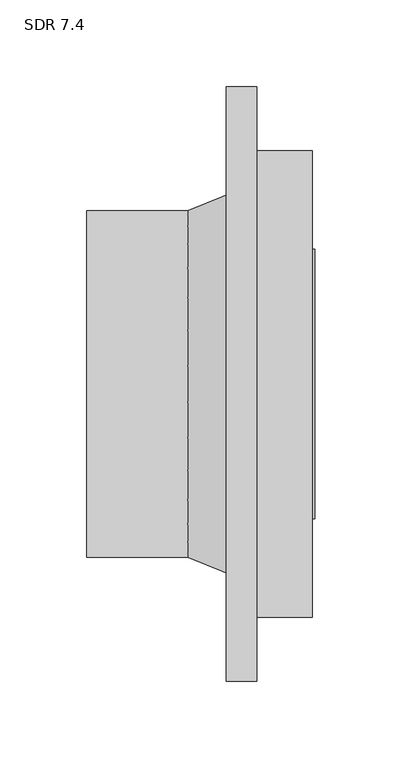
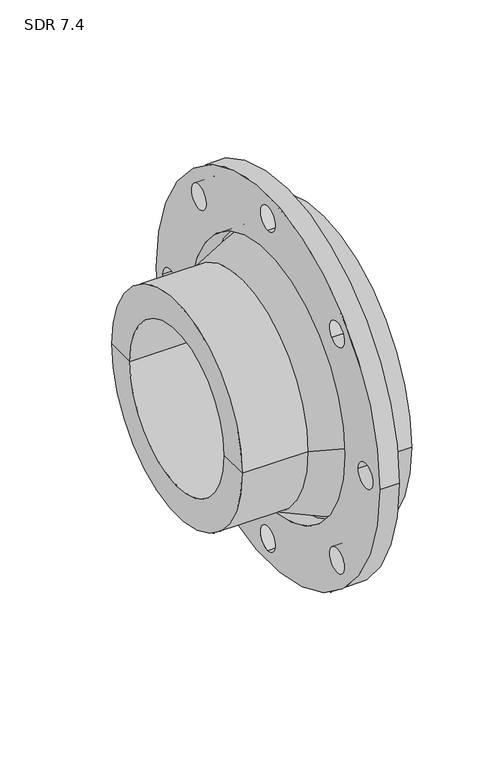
"""IFC4 building model written with IfcOpenShell, lengths in millimetres: valve geometry, Aquatherm - Flange Adapter Butt-Weld : SDR 7.4."""

from ifc_helpers import new_model, si_unit, point, frame, frame_2d, origin, origin_2d, place, context, project, spatial, polyline, circle_curve, trimmed, segment, composite_curve, outline, extrude, source, transform, mapped, element, save
from ifc_brep_helpers import plane_surface, cylinder_surface, revolved_surface, advanced_brep


def sdr_7_4_f0b06e39(model_context):
    return source(origin(), model_context, "Body", "SolidModel", [
        extrude(outline(composite_curve([segment(trimmed(circle_curve(origin_2d(), 171.45), [point((-171.45, 0.0))], [point((171.45, 0.0))], False, "CARTESIAN"), True, "CONTINUOUS"), segment(trimmed(circle_curve(origin_2d(), 171.45), [point((171.45, 0.0))], [point((-171.45, 0.0))], False, "CARTESIAN"), True, "CONTINUOUS")], self_intersect=False), holes=[composite_curve([segment(trimmed(circle_curve(origin_2d(), 118.237), [point((-118.237, 0.0))], [point((118.237, 0.0))], True, "CARTESIAN"), True, "CONTINUOUS"), segment(trimmed(circle_curve(origin_2d(), 118.237), [point((118.237, 0.0))], [point((-118.237, 0.0))], True, "CARTESIAN"), True, "CONTINUOUS")], self_intersect=False), composite_curve([segment(trimmed(circle_curve(frame_2d((149.86, 0.0)), 11.176), [point((138.684, 0.0))], [point((161.036, 0.0))], True, "CARTESIAN"), True, "CONTINUOUS"), segment(trimmed(circle_curve(frame_2d((149.86, 0.0)), 11.176), [point((161.036, 0.0))], [point((138.684, 0.0))], True, "CARTESIAN"), True, "CONTINUOUS")], self_intersect=False), composite_curve([segment(trimmed(circle_curve(frame_2d((105.9670222, -105.9670222)), 11.176), [point((98.0643968, -98.0643968))], [point((113.8696476, -113.8696476))], True, "CARTESIAN"), True, "CONTINUOUS"), segment(trimmed(circle_curve(frame_2d((105.9670222, -105.9670222)), 11.176), [point((113.8696476, -113.8696476))], [point((98.0643968, -98.0643968))], True, "CARTESIAN"), True, "CONTINUOUS")], self_intersect=False), composite_curve([segment(trimmed(circle_curve(frame_2d((105.9670222, 105.9670222)), 11.176), [point((98.0643968, 98.0643968))], [point((113.8696476, 113.8696476))], True, "CARTESIAN"), True, "CONTINUOUS"), segment(trimmed(circle_curve(frame_2d((105.9670222, 105.9670222)), 11.176), [point((113.8696476, 113.8696476))], [point((98.0643968, 98.0643968))], True, "CARTESIAN"), True, "CONTINUOUS")], self_intersect=False), composite_curve([segment(trimmed(circle_curve(frame_2d((0.0, 149.86)), 11.176), [point((0.0, 138.684))], [point((0.0, 161.036))], True, "CARTESIAN"), True, "CONTINUOUS"), segment(trimmed(circle_curve(frame_2d((0.0, 149.86)), 11.176), [point((0.0, 161.036))], [point((0.0, 138.684))], True, "CARTESIAN"), True, "CONTINUOUS")], self_intersect=False), composite_curve([segment(trimmed(circle_curve(frame_2d((-105.9670222, 105.9670222)), 11.176), [point((-98.0643968, 98.0643968))], [point((-113.8696476, 113.8696476))], True, "CARTESIAN"), True, "CONTINUOUS"), segment(trimmed(circle_curve(frame_2d((-105.9670222, 105.9670222)), 11.176), [point((-113.8696476, 113.8696476))], [point((-98.0643968, 98.0643968))], True, "CARTESIAN"), True, "CONTINUOUS")], self_intersect=False), composite_curve([segment(trimmed(circle_curve(frame_2d((-149.86, 0.0)), 11.176), [point((-138.684, 0.0))], [point((-161.036, 0.0))], True, "CARTESIAN"), True, "CONTINUOUS"), segment(trimmed(circle_curve(frame_2d((-149.86, 0.0)), 11.176), [point((-161.036, 0.0))], [point((-138.684, 0.0))], True, "CARTESIAN"), True, "CONTINUOUS")], self_intersect=False), composite_curve([segment(trimmed(circle_curve(frame_2d((-105.9670222, -105.9670222)), 11.176), [point((-98.0643968, -98.0643968))], [point((-113.8696476, -113.8696476))], True, "CARTESIAN"), True, "CONTINUOUS"), segment(trimmed(circle_curve(frame_2d((-105.9670222, -105.9670222)), 11.176), [point((-113.8696476, -113.8696476))], [point((-98.0643968, -98.0643968))], True, "CARTESIAN"), True, "CONTINUOUS")], self_intersect=False), composite_curve([segment(trimmed(circle_curve(frame_2d((0.0, -149.86)), 11.176), [point((0.0, -138.684))], [point((0.0, -161.036))], True, "CARTESIAN"), True, "CONTINUOUS"), segment(trimmed(circle_curve(frame_2d((0.0, -149.86)), 11.176), [point((0.0, -161.036))], [point((0.0, -138.684))], True, "CARTESIAN"), True, "CONTINUOUS")], self_intersect=False)]), frame((-17.526, 0.0, 0.0), z_axis=(1.0, 0.0, 0.0), x_axis=(0.0, 1.0, 0.0)), (0.0, 0.0, 1.0), 17.526),
        advanced_brep(
        [(32.004, 134.62, 0.0), (32.004, -134.62, 0.0), (0.0, -134.62, 0.0), (0.0, 134.62, 0.0), (33.5915, 72.517, 0.0), (33.5915, -72.517, 0.0), (33.5915, -77.597, 0.0), (33.5915, 77.597, 0.0), (-98.044, 72.517, 0.0), (-98.044, -72.517, 0.0), (-98.044, 99.949, 0.0), (-98.044, -99.949, 0.0), (-39.878, 99.949, 0.0), (-39.878, -99.949, 0.0), (0.0, -115.951, 0.0), (0.0, 115.951, 0.0), (32.004, 77.597, 0.0), (32.004, -77.597, 0.0)],
        [
            (0, 1, circle_curve(frame((32.004, 0.0, 0.0), z_axis=(-1.0, 0.0, 0.0), x_axis=(0.0, -1.0, 0.0)), 134.62)),
            (1, 2),
            (2, 3, circle_curve(frame((0.0, 0.0, 0.0), z_axis=(1.0, 0.0, 0.0), x_axis=(0.0, -1.0, 0.0)), 134.62)),
            (3, 0),
            (1, 0, circle_curve(frame((32.004, 0.0, 0.0), z_axis=(-1.0, 0.0, 0.0), x_axis=(0.0, -1.0, 0.0)), 134.62)),
            (3, 2, circle_curve(frame((0.0, 0.0, 0.0), z_axis=(1.0, 0.0, 0.0), x_axis=(0.0, -1.0, 0.0)), 134.62)),
            (4, 5, circle_curve(frame((33.5915, 0.0, 0.0), z_axis=(-1.0, 0.0, 0.0), x_axis=(0.0, -1.0, 0.0)), 72.517)),
            (5, 6),
            (6, 7, circle_curve(frame((33.5915, 0.0, 0.0), z_axis=(1.0, 0.0, 0.0), x_axis=(0.0, -1.0, 0.0)), 77.597)),
            (7, 4),
            (5, 4, circle_curve(frame((33.5915, 0.0, 0.0), z_axis=(-1.0, 0.0, 0.0), x_axis=(0.0, -1.0, 0.0)), 72.517)),
            (7, 6, circle_curve(frame((33.5915, 0.0, 0.0), z_axis=(1.0, 0.0, 0.0), x_axis=(0.0, -1.0, 0.0)), 77.597)),
            (8, 9, circle_curve(frame((-98.044, 0.0, 0.0), z_axis=(-1.0, 0.0, 0.0), x_axis=(0.0, -1.0, 0.0)), 72.517)),
            (9, 5),
            (4, 8),
            (9, 8, circle_curve(frame((-98.044, 0.0, 0.0), z_axis=(-1.0, 0.0, 0.0), x_axis=(0.0, -1.0, 0.0)), 72.517)),
            (10, 11, circle_curve(frame((-98.044, 0.0, 0.0), z_axis=(-1.0, 0.0, 0.0), x_axis=(0.0, -1.0, 0.0)), 99.949)),
            (11, 9),
            (8, 10),
            (11, 10, circle_curve(frame((-98.044, 0.0, 0.0), z_axis=(-1.0, 0.0, 0.0), x_axis=(0.0, -1.0, 0.0)), 99.949)),
            (12, 13, circle_curve(frame((-39.878, 0.0, 0.0), z_axis=(-1.0, 0.0, 0.0), x_axis=(0.0, -1.0, 0.0)), 99.949)),
            (13, 11),
            (10, 12),
            (13, 12, circle_curve(frame((-39.878, 0.0, 0.0), z_axis=(-1.0, 0.0, 0.0), x_axis=(0.0, -1.0, 0.0)), 99.949)),
            (2, 14),
            (14, 15, circle_curve(frame((0.0, 0.0, 0.0), z_axis=(1.0, 0.0, 0.0), x_axis=(0.0, -1.0, 0.0)), 115.951)),
            (15, 3),
            (15, 14, circle_curve(frame((0.0, 0.0, 0.0), z_axis=(1.0, 0.0, 0.0), x_axis=(0.0, -1.0, 0.0)), 115.951)),
            (16, 17, circle_curve(frame((32.004, 0.0, 0.0), z_axis=(-1.0, 0.0, 0.0), x_axis=(0.0, -1.0, 0.0)), 77.597)),
            (17, 1),
            (0, 16),
            (17, 16, circle_curve(frame((32.004, 0.0, 0.0), z_axis=(-1.0, 0.0, 0.0), x_axis=(0.0, -1.0, 0.0)), 77.597)),
            (6, 17),
            (16, 7),
            (14, 13),
            (12, 15),
        ],
        [
            cylinder_surface(frame((1472.6429321, 0.0, 0.0), z_axis=(1.0, 0.0, 0.0), x_axis=(0.0, -1.0, 0.0)), 134.62),
            plane_surface(frame((33.5915, 0.0, 0.0), z_axis=(1.0, 0.0, 0.0), x_axis=(0.0, -1.0, 0.0))),
            revolved_surface(polyline([(33.591499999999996, -72.517, 0.0), (-98.0440000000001, -72.517, 0.0)]), (1472.6429321, 0.0, 0.0), (1.0, 0.0, 0.0)),
            plane_surface(frame((-98.044, 0.0, 0.0), z_axis=(-1.0, 0.0, 0.0), x_axis=(0.0, -1.0, 0.0))),
            cylinder_surface(frame((1472.6429321, 0.0, 0.0), z_axis=(1.0, 0.0, 0.0), x_axis=(0.0, -1.0, 0.0)), 99.949),
            plane_surface(frame((0.0, 0.0, 0.0), z_axis=(-1.0, 0.0, 0.0), x_axis=(0.0, -1.0, 0.0))),
            plane_surface(frame((32.004, 0.0, 0.0), z_axis=(1.0, 0.0, 0.0), x_axis=(0.0, -1.0, 0.0))),
            cylinder_surface(frame((1472.6429321, 0.0, 0.0), z_axis=(1.0, 0.0, 0.0), x_axis=(0.0, -1.0, 0.0)), 77.597),
            revolved_surface(polyline([(-39.878, -99.949, 0.0), (0.0, -115.951, 0.0)]), (1472.6429321, 0.0, 0.0), (1.0, 0.0, 0.0)),
        ],
        [
            (0, [[1, 2, 3, 4]]),
            (0, [[5, -4, 6, -2]]),
            (1, [[7, 8, 9, 10]]),
            (1, [[11, -10, 12, -8]]),
            (2, [[13, 14, -7, 15]]),
            (2, [[16, -15, -11, -14]]),
            (3, [[17, 18, -13, 19]]),
            (3, [[20, -19, -16, -18]]),
            (4, [[21, 22, -17, 23]]),
            (4, [[24, -23, -20, -22]]),
            (5, [[-3, 25, 26, 27]]),
            (5, [[-6, -27, 28, -25]]),
            (6, [[29, 30, -1, 31]]),
            (6, [[32, -31, -5, -30]]),
            (7, [[-9, 33, -29, 34]]),
            (7, [[-12, -34, -32, -33]]),
            (8, [[-26, 35, -21, 36]]),
            (8, [[-28, -36, -24, -35]]),
        ],
    ),
    ])


if __name__ == "__main__":
    model = new_model("IFC4")
    model_context = context("Model", 3, world=origin())
    ifc_project = project(units=[si_unit("LENGTHUNIT", "METRE", prefix="MILLI")], contexts=[model_context])
    site = spatial("IfcSite", under=ifc_project)
    building = spatial("IfcBuilding", under=site)
    placement = place(None, origin())
    sdr_7_4_shape = sdr_7_4_f0b06e39(model_context)
    element("IfcValve", 1, ObjectType="Aquatherm - Flange Adapter Butt-Weld : SDR 7.4", at=placement, inside=building, context=model_context, shape_type="MappedRepresentation", body=[
        mapped(sdr_7_4_shape, transform((0.0, 0.0, 0.0), x_axis=(1.0, 0.0, 0.0), y_axis=(0.0, 1.0, 0.0), z_axis=(0.0, 0.0, 1.0))),
    ])
    save(model, "model.ifc")
